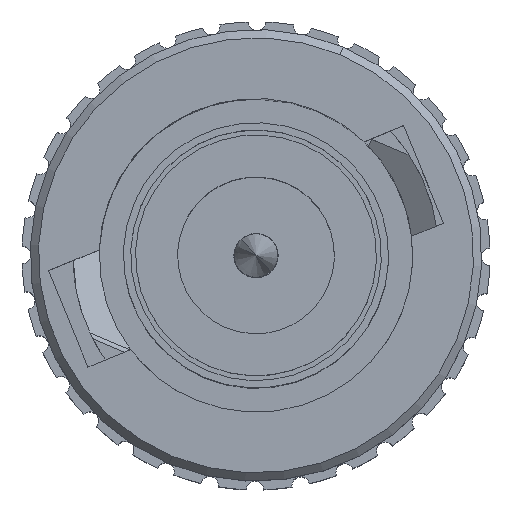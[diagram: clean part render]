
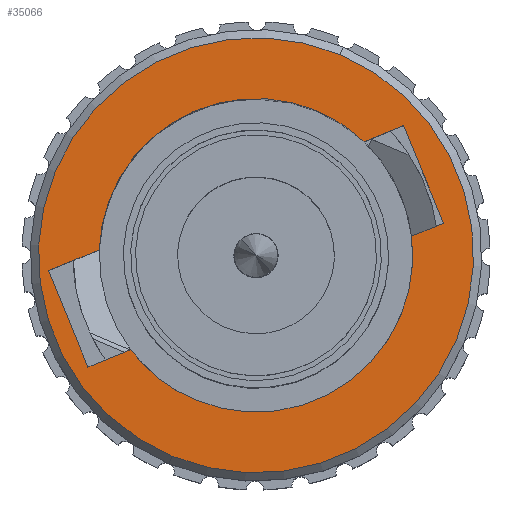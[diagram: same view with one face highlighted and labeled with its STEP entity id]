
A CAD part, top view. The second image highlights one B-rep face of the part: STEP entity #35066.
In plain terms, the highlighted planar face has unit normal (0, 0, 1).
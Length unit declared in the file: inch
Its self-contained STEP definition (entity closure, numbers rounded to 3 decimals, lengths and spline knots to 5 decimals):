
#130 = CARTESIAN_POINT ( 'NONE',  ( -0.19088, 0.11167, 2.78621 ) ) ;
#1023 = DIRECTION ( 'NONE',  ( 0.386, 0.922, 0. ) ) ;
#1752 = CIRCLE ( 'NONE', #17434, 0.265 ) ;
#1813 = CARTESIAN_POINT ( 'NONE',  ( 0.2284, 0.14407, 2.78621 ) ) ;
#2034 = VECTOR ( 'NONE', #3683, 39.37008 ) ;
#2666 = CARTESIAN_POINT ( 'NONE',  ( 0., 0.105, 2.78621 ) ) ;
#3505 = AXIS2_PLACEMENT_3D ( 'NONE', #29193, #12966, #31961 ) ;
#3683 = DIRECTION ( 'NONE',  ( -0.926, -0.378, 0. ) ) ;
#4097 = ORIENTED_EDGE ( 'NONE', *, *, #20642, .F. ) ;
#4427 = ORIENTED_EDGE ( 'NONE', *, *, #28779, .T. ) ;
#4532 = EDGE_LOOP ( 'NONE', ( #14927, #4097, #14733, #31590, #24225, #32631, #32306, #23078, #25476, #21694 ) ) ;
#4951 = VECTOR ( 'NONE', #26092, 39.37008 ) ;
#5430 = DIRECTION ( 'NONE',  ( -0.386, -0.922, 0. ) ) ;
#5545 = CARTESIAN_POINT ( 'NONE',  ( 0.17975, 0.26313, 2.78621 ) ) ;
#5781 = LINE ( 'NONE', #1813, #4951 ) ;
#6050 = CARTESIAN_POINT ( 'NONE',  ( 0.10237, 0.34943, 2.78621 ) ) ;
#6173 = CARTESIAN_POINT ( 'NONE',  ( 0.2284, 0.14407, 2.78621 ) ) ;
#6206 = AXIS2_PLACEMENT_3D ( 'NONE', #11933, #30878, #14679 ) ;
#6727 = CARTESIAN_POINT ( 'NONE',  ( 0., 0.105, 2.78621 ) ) ;
#7035 = VECTOR ( 'NONE', #13709, 39.37008 ) ;
#7377 = EDGE_CURVE ( 'NONE', #20883, #21631, #24224, .T. ) ;
#7602 = FACE_OUTER_BOUND ( 'NONE', #21262, .T. ) ;
#7770 = CARTESIAN_POINT ( 'NONE',  ( -0.20467, -0.03107, 2.78621 ) ) ;
#8228 = CARTESIAN_POINT ( 'NONE',  ( -0.07378, -0.07117, 2.78621 ) ) ;
#8257 = EDGE_CURVE ( 'NONE', #21631, #30302, #9246, .T. ) ;
#8768 = CARTESIAN_POINT ( 'NONE',  ( 0., 0.105, 2.78621 ) ) ;
#8913 = DIRECTION ( 'NONE',  ( 0.927, 0.375, 0. ) ) ;
#9125 = EDGE_CURVE ( 'NONE', #11638, #23120, #5781, .T. ) ;
#9246 = LINE ( 'NONE', #6173, #16449 ) ;
#9432 = DIRECTION ( 'NONE',  ( 0.386, 0.922, 0. ) ) ;
#9520 = CARTESIAN_POINT ( 'NONE',  ( -0.15252, -0.00998, 2.78621 ) ) ;
#10407 = CARTESIAN_POINT ( 'NONE',  ( 0.07378, 0.28117, 2.78621 ) ) ;
#10522 = DIRECTION ( 'NONE',  ( 0., 0., 1. ) ) ;
#11066 = VERTEX_POINT ( 'NONE', #130 ) ;
#11108 = VERTEX_POINT ( 'NONE', #6050 ) ;
#11485 = DIRECTION ( 'NONE',  ( -0.386, -0.922, 0. ) ) ;
#11638 = VERTEX_POINT ( 'NONE', #14879 ) ;
#11724 = AXIS2_PLACEMENT_3D ( 'NONE', #26695, #10522, #29442 ) ;
#11933 = CARTESIAN_POINT ( 'NONE',  ( 0., 0.105, 2.78621 ) ) ;
#12966 = DIRECTION ( 'NONE',  ( 0., 0., 1. ) ) ;
#13048 = EDGE_CURVE ( 'NONE', #18419, #11638, #33160, .T. ) ;
#13709 = DIRECTION ( 'NONE',  ( -0.378, 0.926, 0. ) ) ;
#13842 = VERTEX_POINT ( 'NONE', #29938 ) ;
#14239 = LINE ( 'NONE', #5545, #7035 ) ;
#14346 = DIRECTION ( 'NONE',  ( 0.378, -0.926, 0. ) ) ;
#14462 = CARTESIAN_POINT ( 'NONE',  ( -0.25268, 0.08641, 2.78621 ) ) ;
#14631 = EDGE_CURVE ( 'NONE', #27062, #11066, #17682, .T. ) ;
#14679 = DIRECTION ( 'NONE',  ( 0.386, 0.922, 0. ) ) ;
#14733 = ORIENTED_EDGE ( 'NONE', *, *, #21570, .F. ) ;
#14879 = CARTESIAN_POINT ( 'NONE',  ( 0.18957, 0.12837, 2.78621 ) ) ;
#14927 = ORIENTED_EDGE ( 'NONE', *, *, #19789, .F. ) ;
#15140 = LINE ( 'NONE', #16330, #22347 ) ;
#15986 = CARTESIAN_POINT ( 'NONE',  ( -0.25268, 0.08641, 2.78621 ) ) ;
#16330 = CARTESIAN_POINT ( 'NONE',  ( -0.25268, 0.08641, 2.78621 ) ) ;
#16449 = VECTOR ( 'NONE', #8913, 39.37008 ) ;
#16471 = LINE ( 'NONE', #33313, #2034 ) ;
#17055 = VECTOR ( 'NONE', #14346, 39.37008 ) ;
#17251 = DIRECTION ( 'NONE',  ( 0., 0., 1. ) ) ;
#17377 = EDGE_CURVE ( 'NONE', #11066, #20883, #15140, .T. ) ;
#17434 = AXIS2_PLACEMENT_3D ( 'NONE', #2666, #21659, #5430 ) ;
#17682 = CIRCLE ( 'NONE', #21135, 0.191 ) ;
#18419 = VERTEX_POINT ( 'NONE', #8228 ) ;
#18620 = VERTEX_POINT ( 'NONE', #22744 ) ;
#18915 = CARTESIAN_POINT ( 'NONE',  ( 0.2284, 0.14407, 2.78621 ) ) ;
#19033 = DIRECTION ( 'NONE',  ( -0.926, -0.378, 0. ) ) ;
#19076 = EDGE_CURVE ( 'NONE', #30302, #18419, #23015, .T. ) ;
#19789 = EDGE_CURVE ( 'NONE', #13842, #27062, #28436, .T. ) ;
#20036 = AXIS2_PLACEMENT_3D ( 'NONE', #8768, #27688, #11485 ) ;
#20642 = EDGE_CURVE ( 'NONE', #18620, #13842, #16471, .T. ) ;
#20883 = VERTEX_POINT ( 'NONE', #15986 ) ;
#21068 = CIRCLE ( 'NONE', #11724, 0.265 ) ;
#21135 = AXIS2_PLACEMENT_3D ( 'NONE', #6727, #25653, #9432 ) ;
#21146 = FACE_BOUND ( 'NONE', #4532, .T. ) ;
#21262 = EDGE_LOOP ( 'NONE', ( #4427, #27737 ) ) ;
#21570 = EDGE_CURVE ( 'NONE', #23120, #18620, #14239, .T. ) ;
#21584 = AXIS2_PLACEMENT_3D ( 'NONE', #33480, #17251, #1023 ) ;
#21631 = VERTEX_POINT ( 'NONE', #7770 ) ;
#21659 = DIRECTION ( 'NONE',  ( 0., 0., 1. ) ) ;
#21694 = ORIENTED_EDGE ( 'NONE', *, *, #14631, .F. ) ;
#22347 = VECTOR ( 'NONE', #19033, 39.37008 ) ;
#22744 = CARTESIAN_POINT ( 'NONE',  ( 0.17975, 0.26313, 2.78621 ) ) ;
#23015 = CIRCLE ( 'NONE', #6206, 0.191 ) ;
#23078 = ORIENTED_EDGE ( 'NONE', *, *, #7377, .F. ) ;
#23105 = EDGE_CURVE ( 'NONE', #11108, #26282, #1752, .T. ) ;
#23120 = VERTEX_POINT ( 'NONE', #18915 ) ;
#24224 = LINE ( 'NONE', #14462, #17055 ) ;
#24225 = ORIENTED_EDGE ( 'NONE', *, *, #13048, .F. ) ;
#25352 = CARTESIAN_POINT ( 'NONE',  ( -0.10237, -0.13943, 2.78621 ) ) ;
#25476 = ORIENTED_EDGE ( 'NONE', *, *, #17377, .F. ) ;
#25653 = DIRECTION ( 'NONE',  ( 0., 0., 1. ) ) ;
#26092 = DIRECTION ( 'NONE',  ( 0.927, 0.375, 0. ) ) ;
#26282 = VERTEX_POINT ( 'NONE', #25352 ) ;
#26695 = CARTESIAN_POINT ( 'NONE',  ( 0., 0.105, 2.78621 ) ) ;
#27062 = VERTEX_POINT ( 'NONE', #10407 ) ;
#27688 = DIRECTION ( 'NONE',  ( 0., 0., -1. ) ) ;
#27737 = ORIENTED_EDGE ( 'NONE', *, *, #23105, .T. ) ;
#28436 = CIRCLE ( 'NONE', #3505, 0.191 ) ;
#28779 = EDGE_CURVE ( 'NONE', #26282, #11108, #21068, .T. ) ;
#29193 = CARTESIAN_POINT ( 'NONE',  ( 0., 0.105, 2.78621 ) ) ;
#29442 = DIRECTION ( 'NONE',  ( -0.386, -0.922, 0. ) ) ;
#29938 = CARTESIAN_POINT ( 'NONE',  ( 0.13158, 0.24345, 2.78621 ) ) ;
#30289 = PLANE ( 'NONE',  #20036 ) ;
#30302 = VERTEX_POINT ( 'NONE', #9520 ) ;
#30878 = DIRECTION ( 'NONE',  ( 0., 0., 1. ) ) ;
#31590 = ORIENTED_EDGE ( 'NONE', *, *, #9125, .F. ) ;
#31961 = DIRECTION ( 'NONE',  ( 0.386, 0.922, 0. ) ) ;
#32306 = ORIENTED_EDGE ( 'NONE', *, *, #8257, .F. ) ;
#32631 = ORIENTED_EDGE ( 'NONE', *, *, #19076, .F. ) ;
#33160 = CIRCLE ( 'NONE', #21584, 0.191 ) ;
#33313 = CARTESIAN_POINT ( 'NONE',  ( -0.25268, 0.08641, 2.78621 ) ) ;
#33480 = CARTESIAN_POINT ( 'NONE',  ( 0., 0.105, 2.78621 ) ) ;
#35066 = ADVANCED_FACE ( 'NONE', ( #7602, #21146 ), #30289, .F. ) ;
